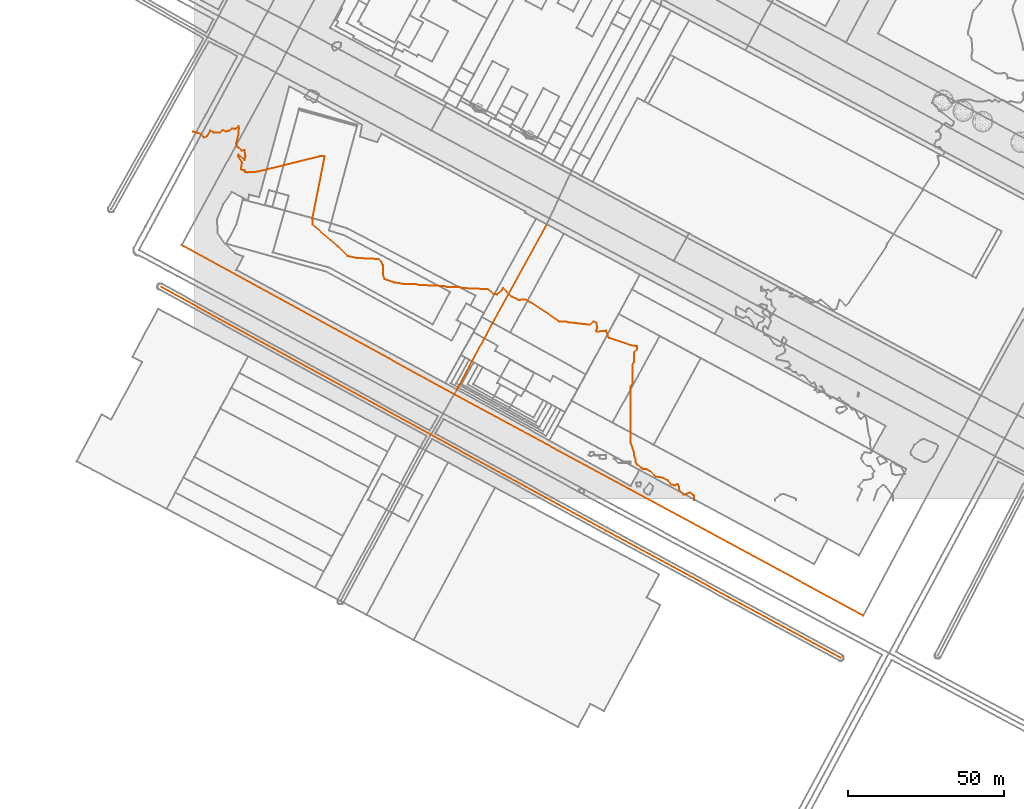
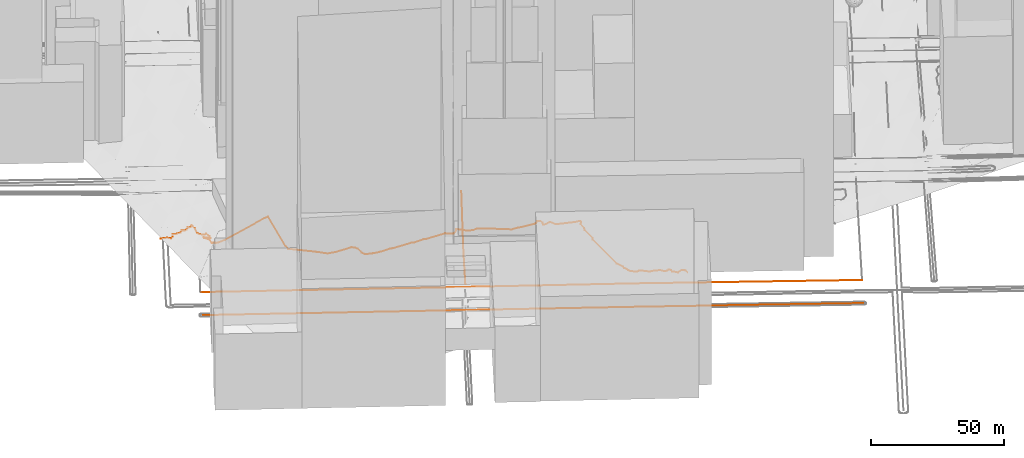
# Not in any storey, part 47 of 76: 4 proxies.
"""IFC2X3 model written with IfcOpenShell, lengths in metres."""

import ifcopenshell
import ifcopenshell.guid

model = None  # the IFC model being written
_history = None  # IfcOwnerHistory: only IFC2X3 demands one
_inside = {}  # id of a spatial element -> (the spatial element, [elements in it])
_under = {}  # id of a project, library or spatial element -> (it, [spatial elements below it])
_declared = {}  # id of a project -> (the project, [libraries it declares])
_typed = {}  # id of a type object -> (the type object, [elements of that type])
_made_of = {}  # id of a material, layer set ... -> (it, [elements and type objects made of it])


def new_model(schema):
    """Start an empty IFC model of exactly this schema.

    Asked for "IFC4X3", IfcOpenShell would pick the latest addendum, in which some entities
    have other attributes; the version numbers below select the first issue.
    IFC2X3 requires an IfcOwnerHistory on every rooted entity: one is made here for all.
    """
    global model, _history
    if schema == "IFC4X3":
        model = ifcopenshell.file(schema_version=(4, 3, 0, 0))
    else:
        model = ifcopenshell.file(schema=schema)
    _inside.clear()
    _under.clear()
    _declared.clear()
    _typed.clear()
    _made_of.clear()
    _history = None
    if model.schema == "IFC2X3":
        org = make("IfcOrganization", Name="unknown")
        user = make(
            "IfcPersonAndOrganization",
            ThePerson=make("IfcPerson", FamilyName="unknown"),
            TheOrganization=org,
        )
        app = make(
            "IfcApplication",
            ApplicationDeveloper=org,
            Version="unknown",
            ApplicationFullName="unknown",
            ApplicationIdentifier="unknown",
        )
        _history = make(
            "IfcOwnerHistory",
            OwningUser=user,
            OwningApplication=app,
            ChangeAction="ADDED",
            CreationDate=0,
        )
    return model


def make(cls, **values):
    """One entity of the class cls with the attributes given. An attribute that is None is left unset."""
    return model.create_entity(
        cls, **{name: value for name, value in values.items() if value is not None}
    )


def entity(cls, *values):
    """Any entity or typed value of the class cls, its attributes in the order of the schema. None: left unset."""
    e = model.create_entity(cls)
    for i, value in enumerate(values):
        if value is not None:
            e[i] = value
    return e


def rooted(cls, **values):
    """An entity with a GlobalId (a new one), such as an element, a storey or a relation."""
    return make(cls, GlobalId=ifcopenshell.guid.new(), OwnerHistory=_history, **values)


def si_unit(unit_type, name, prefix=None):
    """IfcSIUnit, for example si_unit("LENGTHUNIT", "METRE", prefix="MILLI")."""
    return make("IfcSIUnit", UnitType=unit_type, Prefix=prefix, Name=name)


def assignment(units):
    """IfcUnitAssignment: the units of a project."""
    return None if units is None else make("IfcUnitAssignment", Units=units)


def point(xyz):
    """IfcCartesianPoint."""
    return None if xyz is None else make("IfcCartesianPoint", Coordinates=xyz)


def direction(xyz):
    """IfcDirection."""
    return None if xyz is None else make("IfcDirection", DirectionRatios=xyz)


def frame(location, z_axis=None, x_axis=None):
    """IfcAxis2Placement3D, a coordinate frame: its origin and axes. An axis left out is left unset."""
    return make(
        "IfcAxis2Placement3D",
        Location=point(location),
        Axis=direction(z_axis),
        RefDirection=direction(x_axis),
    )


def origin_with_axes():
    """The frame at (0, 0, 0) with the z axis (0, 0, 1) and the x axis (1, 0, 0) written out."""
    return frame((0.0, 0.0, 0.0), z_axis=(0.0, 0.0, 1.0), x_axis=(1.0, 0.0, 0.0))


def place(relative_to, where):
    """IfcLocalPlacement: puts the frame where relative to a parent placement (None: the world)."""
    return make(
        "IfcLocalPlacement", PlacementRelTo=relative_to, RelativePlacement=where
    )


def context(
    kind, dimensions, precision=None, world=None, true_north=None, identifier=None
):
    """IfcGeometricRepresentationContext, for example the 3D "Model" context."""
    return make(
        "IfcGeometricRepresentationContext",
        ContextIdentifier=identifier,
        ContextType=kind,
        CoordinateSpaceDimension=dimensions,
        Precision=precision,
        WorldCoordinateSystem=world,
        TrueNorth=true_north,
    )


def subcontext(parent, identifier, kind, view, scale=None):
    """IfcGeometricRepresentationSubContext, for example "Body" below "Model"."""
    return make(
        "IfcGeometricRepresentationSubContext",
        ContextIdentifier=identifier,
        ContextType=kind,
        ParentContext=parent,
        TargetScale=scale,
        TargetView=view,
    )


def project(units=None, contexts=None):
    """IfcProject with its units and contexts."""
    return rooted(
        "IfcProject",
        Name="project",
        RepresentationContexts=contexts,
        UnitsInContext=assignment(units),
    )


def shape(context_of_items, identifier, shape_type, items):
    """IfcShapeRepresentation: the items that make up one representation, for example the "Body"."""
    return make(
        "IfcShapeRepresentation",
        ContextOfItems=context_of_items,
        RepresentationIdentifier=identifier,
        RepresentationType=shape_type,
        Items=items,
    )


def made_of(thing, what):
    """Note that an element or type object is made of a material, layer set ...; save() writes the relation."""
    if what is not None:
        _made_of.setdefault(what.id(), (what, []))[1].append(thing)
    return thing


def element(
    cls,
    number,
    at=None,
    inside=None,
    cuts=None,
    type_object=None,
    material=None,
    context=None,
    identifier="Body",
    shape_type=None,
    held_by="IfcProductDefinitionShape",
    body=None,
    shapes=None,
    **own,
):
    """One element of the class cls, such as IfcWall. Its Tag is "e" and its number.

    at: its placement. inside: the storey or other place that contains it. cuts: it is an
    opening in that element (IfcRelVoidsElement). A single representation is given by context,
    identifier, shape_type and body (its items); several are given by shapes. held_by: the class
    of the entity that holds the representations. save() writes the other relations.
    """
    e = rooted(cls, Tag="e%d" % number, ObjectPlacement=at, **own)
    if body is not None:
        shapes = [shape(context, identifier, shape_type, body)]
    if shapes is not None:
        e.Representation = make(held_by, Representations=shapes)
    if inside is not None:
        _inside.setdefault(inside.id(), (inside, []))[1].append(e)
    if cuts is not None:
        rooted(
            "IfcRelVoidsElement", RelatingBuildingElement=cuts, RelatedOpeningElement=e
        )
    if type_object is not None:
        _typed.setdefault(type_object.id(), (type_object, []))[1].append(e)
    return made_of(e, material)


def aggregate(whole, parts):
    """IfcRelAggregates: a whole, such as a stair, and the parts it consists of."""
    return rooted("IfcRelAggregates", RelatingObject=whole, RelatedObjects=parts)


def save(model, path):
    """Write the relations noted so far, then the file.

    IfcRelAggregates (storeys below a building ...), IfcRelContainedInSpatialStructure (elements
    in a storey), IfcRelDefinesByType, IfcRelAssociatesMaterial and IfcRelDeclares: one each for
    every whole, place, type object, material and project.
    """
    for whole, parts in _under.values():
        aggregate(whole, parts)
    for where, things in _inside.values():
        rooted(
            "IfcRelContainedInSpatialStructure",
            RelatedElements=things,
            RelatingStructure=where,
        )
    for kind, things in _typed.values():
        rooted("IfcRelDefinesByType", RelatedObjects=things, RelatingType=kind)
    for what, things in _made_of.values():
        rooted("IfcRelAssociatesMaterial", RelatedObjects=things, RelatingMaterial=what)
    for by, libraries in _declared.values():
        rooted("IfcRelDeclares", RelatingContext=by, RelatedDefinitions=libraries)
    model.write(path)


model = new_model("IFC2X3")

# Units and contexts
model_context = context("Model", 3, precision=1e-05, world=origin_with_axes())
body_context = subcontext(model_context, "Body", "Model", "MODEL_VIEW")
ifc_project = project(units=[si_unit("AREAUNIT", "SQUARE_METRE"), si_unit("LENGTHUNIT", "METRE")], contexts=[model_context])

# Proxies
proxy_1_placement = place(None, frame((-3.9679061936, 81.5333067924, 18.7696583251), z_axis=(0.0, 0.0, 1.0), x_axis=(1.0, 0.0, 0.0)))
element("IfcBuildingElementProxy", 1, at=proxy_1_placement, Name="Route 54", ObjectType="NOTDEFINED", context=body_context, shape_type="GeometricCurveSet", body=[
    entity("IfcGeometricCurveSet", [entity("IfcPolyline", [entity("IfcCartesianPoint", [0.0, 0.0, 0.0]), entity("IfcCartesianPoint", [87.4628549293, -47.9125309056, 0.8122680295]), entity("IfcCartesianPoint", [143.5901452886, -78.3024847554, 1.2194117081]), entity("IfcCartesianPoint", [218.7889416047, -118.9507915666, 1.1084000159])])]),
])
proxy_2_placement = place(None, frame((84.3719871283, 35.1519677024, 19.5977278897), z_axis=(0.0, 0.0, 1.0), x_axis=(1.0, 0.0, 0.0)))
element("IfcBuildingElementProxy", 2, at=proxy_2_placement, Name="Route 118", ObjectType="NOTDEFINED", context=body_context, shape_type="GeometricCurveSet", body=[
    entity("IfcGeometricCurveSet", [entity("IfcPolyline", [entity("IfcCartesianPoint", [28.7956528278, 52.959085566, 1.1372752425]), entity("IfcCartesianPoint", [11.4182103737, 21.371195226, 0.1774906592]), entity("IfcCartesianPoint", [0.0, 0.0, 0.0])])]),
])
proxy_3_placement = place(None, frame((-10.8279564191, 68.1754489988, 18.6991640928), z_axis=(0.0, 0.0, 1.0), x_axis=(1.0, 0.0, 0.0)))
element("IfcBuildingElementProxy", 3, at=proxy_3_placement, Name="Route 122", ObjectType="NOTDEFINED", context=body_context, shape_type="GeometricCurveSet", body=[
    entity("IfcGeometricCurveSet", [entity("IfcPolyline", [entity("IfcCartesianPoint", [0.0, 0.0, 0.0]), entity("IfcCartesianPoint", [86.8341082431, -47.553539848, 0.7758298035]), entity("IfcCartesianPoint", [142.9314404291, -78.2658649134, 1.2513010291]), entity("IfcCartesianPoint", [218.3356117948, -119.1450089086, 1.3170135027])])]),
])
proxy_4_placement = place(None, frame((-0.3084972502, 117.9198558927, 20.0), z_axis=(0.0, 0.0, 1.0), x_axis=(1.0, 0.0, 0.0)))
element("IfcBuildingElementProxy", 4, at=proxy_4_placement, Name="Contour 20.0 m", ObjectType="NOTDEFINED", context=body_context, shape_type="GeometricCurveSet", body=[
    entity("IfcGeometricCurveSet", [entity("IfcPolyline", [entity("IfcCartesianPoint", [160.7501430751, -118.3751445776, 0.0]), entity("IfcCartesianPoint", [160.7501013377, -116.8751445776, 0.0]), entity("IfcCartesianPoint", [160.5, -116.5893018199, 0.0]), entity("IfcCartesianPoint", [159.5, -115.8750597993, 0.0]), entity("IfcCartesianPoint", [157.5, -116.5414509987, 0.0]), entity("IfcCartesianPoint", [156.000262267, -114.8751445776, 0.0]), entity("IfcCartesianPoint", [156.0000476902, -113.8751445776, 0.0]), entity("IfcCartesianPoint", [155.5, -113.1251207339, 0.0]), entity("IfcCartesianPoint", [154.5, -113.5416734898, 0.0]), entity("IfcCartesianPoint", [153.5, -113.2081282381, 0.0]), entity("IfcCartesianPoint", [152.5, -111.974984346, 0.0]), entity("IfcCartesianPoint", [150.5, -111.0416787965, 0.0]), entity("IfcCartesianPoint", [148.5, -110.7321317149, 0.0]), entity("IfcCartesianPoint", [146.5002179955, -108.8751445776, 0.0]), entity("IfcCartesianPoint", [145.5, -108.3036420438, 0.0]), entity("IfcCartesianPoint", [144.5, -108.3035602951, 0.0]), entity("IfcCartesianPoint", [143.7502622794, -107.8751445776, 0.0]), entity("IfcCartesianPoint", [142.5002860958, -106.8751445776, 0.0]), entity("IfcCartesianPoint", [141.9999976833, -105.8751445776, 0.0]), entity("IfcCartesianPoint", [141.9999976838, -104.8751445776, 0.0]), entity("IfcCartesianPoint", [141.5001907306, -103.8751445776, 0.0]), entity("IfcCartesianPoint", [141.5000635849, -102.8751445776, 0.0]), entity("IfcCartesianPoint", [140.5002860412, -99.8751445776, 0.0]), entity("IfcCartesianPoint", [140.5001907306, -81.8751445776, 0.0]), entity("IfcCartesianPoint", [140.9999976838, -80.8751445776, 0.0]), entity("IfcCartesianPoint", [141.0000953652, -74.8751445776, 0.0]), entity("IfcCartesianPoint", [141.4999000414, -73.8751445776, 0.0]), entity("IfcCartesianPoint", [141.5000953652, -70.8751445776, 0.0]), entity("IfcCartesianPoint", [142.4998093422, -69.8751445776, 0.0]), entity("IfcCartesianPoint", [142.5001906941, -68.8751445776, 0.0]), entity("IfcCartesianPoint", [140.5, -68.5416628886, 0.0]), entity("IfcCartesianPoint", [133.5, -66.208244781, 0.0]), entity("IfcCartesianPoint", [132.5, -63.8752445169, 0.0]), entity("IfcCartesianPoint", [129.5, -64.2081176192, 0.0]), entity("IfcCartesianPoint", [129.3572830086, -63.8751445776, 0.0]), entity("IfcCartesianPoint", [129.7000686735, -62.8751445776, 0.0]), entity("IfcCartesianPoint", [129.5, -61.3750015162, 0.0]), entity("IfcCartesianPoint", [128.5, -60.8752399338, 0.0]), entity("IfcCartesianPoint", [127.5, -61.8749538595, 0.0]), entity("IfcCartesianPoint", [126.5, -61.8750174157, 0.0]), entity("IfcCartesianPoint", [120.5, -61.2083083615, 0.0]), entity("IfcCartesianPoint", [119.5, -60.8750809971, 0.0]), entity("IfcCartesianPoint", [117.5, -60.8747631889, 0.0]), entity("IfcCartesianPoint", [108.5003814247, -54.8751445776, 0.0]), entity("IfcCartesianPoint", [106.5, -53.8750301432, 0.0]), entity("IfcCartesianPoint", [104.5, -53.9999657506, 0.0]), entity("IfcCartesianPoint", [102.1670481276, -52.8751445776, 0.0]), entity("IfcCartesianPoint", [99.5, -50.1252935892, 0.0]), entity("IfcCartesianPoint", [99.1470383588, -50.8751445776, 0.0]), entity("IfcCartesianPoint", [97.5, -52.2321589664, 0.0]), entity("IfcCartesianPoint", [96.5, -52.0749309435, 0.0]), entity("IfcCartesianPoint", [94.5, -50.54172647, 0.0]), entity("IfcCartesianPoint", [86.5, -50.2083083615, 0.0]), entity("IfcCartesianPoint", [85.5, -49.8750809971, 0.0]), entity("IfcCartesianPoint", [81.5, -49.8748585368, 0.0]), entity("IfcCartesianPoint", [80.5, -49.54172647, 0.0]), entity("IfcCartesianPoint", [72.5, -49.2083083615, 0.0]), entity("IfcCartesianPoint", [71.5, -48.8750809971, 0.0]), entity("IfcCartesianPoint", [67.5, -48.8748585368, 0.0]), entity("IfcCartesianPoint", [64.5, -48.3749061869, 0.0]), entity("IfcCartesianPoint", [61.5, -47.3748107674, 0.0]), entity("IfcCartesianPoint", [61.0001271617, -45.8751445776, 0.0]), entity("IfcCartesianPoint", [60.9000915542, -42.8751445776, 0.0]), entity("IfcCartesianPoint", [60.5, -41.8748584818, 0.0]), entity("IfcCartesianPoint", [59.5001907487, -40.8751445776, 0.0]), entity("IfcCartesianPoint", [52.5, -40.5416417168, 0.0]), entity("IfcCartesianPoint", [49.5, -39.8748902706, 0.0]), entity("IfcCartesianPoint", [46.5, -36.8749538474, 0.0]), entity("IfcCartesianPoint", [38.3002441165, -29.8751445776, 0.0]), entity("IfcCartesianPoint", [38.2501033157, -27.8751445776, 0.0]), entity("IfcCartesianPoint", [42.227293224, -7.8751445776, 0.0]), entity("IfcCartesianPoint", [40.7727193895, -7.8751445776, 0.0]), entity("IfcCartesianPoint", [20.5, -12.842240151, 0.0]), entity("IfcCartesianPoint", [17.5, -13.0464224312, 0.0]), entity("IfcCartesianPoint", [16.6429895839, -12.8751445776, 0.0]), entity("IfcCartesianPoint", [16.5, -12.375049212, 0.0]), entity("IfcCartesianPoint", [15.5, -12.2081599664, 0.0]), entity("IfcCartesianPoint", [15.3335187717, -11.8751445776, 0.0]), entity("IfcCartesianPoint", [15.7002059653, -9.8751445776, 0.0]), entity("IfcCartesianPoint", [14.4168163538, -7.8751445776, 0.0]), entity("IfcCartesianPoint", [14.5, -7.3757172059, 0.0]), entity("IfcCartesianPoint", [16.5, -9.0749843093, 0.0]), entity("IfcCartesianPoint", [16.7631452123, -7.8751445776, 0.0]), entity("IfcCartesianPoint", [16.5, -5.8750492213, 0.0]), entity("IfcCartesianPoint", [15.5, -6.0416575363, 0.0]), entity("IfcCartesianPoint", [14.3002136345, -4.8751445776, 0.0]), entity("IfcCartesianPoint", [13.7728644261, -3.8751445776, 0.0]), entity("IfcCartesianPoint", [14.5000635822, -0.8751445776, 0.0]), entity("IfcCartesianPoint", [14.6999580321, 1.1248554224, 0.0]), entity("IfcCartesianPoint", [14.5, 1.7913949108, 0.0]), entity("IfcCartesianPoint", [13.9999522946, 1.1248554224, 0.0]), entity("IfcCartesianPoint", [13.5, 0.9027415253, 0.0]), entity("IfcCartesianPoint", [12.5, 1.0339542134, 0.0]), entity("IfcCartesianPoint", [11.5, 0.2915724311, 0.0]), entity("IfcCartesianPoint", [10.5, 0.0139020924, 0.0]), entity("IfcCartesianPoint", [9.5, 0.5533918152, 0.0]), entity("IfcCartesianPoint", [8.5, -0.275068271, 0.0]), entity("IfcCartesianPoint", [6.5, -0.2082236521, 0.0]), entity("IfcCartesianPoint", [5.5, 0.3748077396, 0.0]), entity("IfcCartesianPoint", [4.5, -1.3751468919, 0.0]), entity("IfcCartesianPoint", [3.5, -1.8749776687, 0.0]), entity("IfcCartesianPoint", [2.5, -0.7321901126, 0.0]), entity("IfcCartesianPoint", [0.0, 0.0, 0.0])])]),
])

save(model, "model.ifc")
